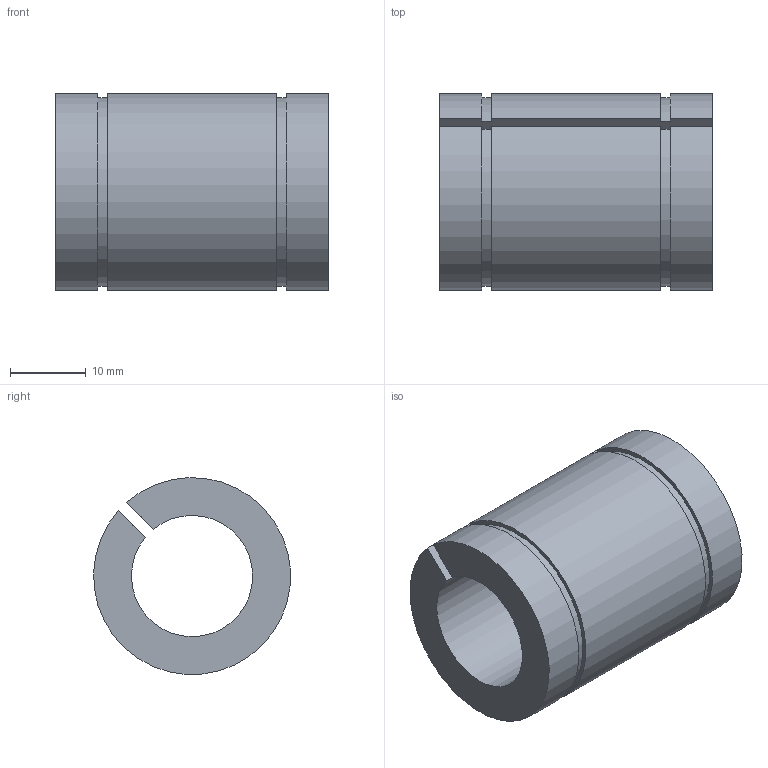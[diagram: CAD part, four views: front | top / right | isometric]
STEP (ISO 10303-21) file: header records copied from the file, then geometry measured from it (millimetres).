
FILE_DESCRIPTION( ( 'STEP AP203' ), '1' );
FILE_NAME( 'p:/temp/worker_87/temp/exporttempdir_3928_190_q4SSn/format_0/LME16UU-AJ.stp', '2020-04-29T03:21:12', ( 'License CC BY-ND 4.0' ), ( 'CADENAS' ), ' ', 'PARTsolutions', ' ' );
FILE_SCHEMA( ( 'CONFIG_CONTROL_DESIGN' ) );
Length unit declared in the file: millimetre
Products named in the file (1): _LME16UU-AJ
Bounding box: 36 x 25.96 x 25.96 mm (x, y, z)
Volume: 11492.8 mm3; surface area: 5808.4 mm2
Topology: 1 solids, 1 shells, 14 faces, 36 edges, 24 vertices
Faces by surface type: plane 8, cylinder 6
Entity records: 476 total; most frequent: DIRECTION 78, CARTESIAN_POINT 75, ORIENTED_EDGE 72, EDGE_CURVE 36, AXIS2_PLACEMENT_3D 27, VERTEX_POINT 24, LINE 24, VECTOR 24
